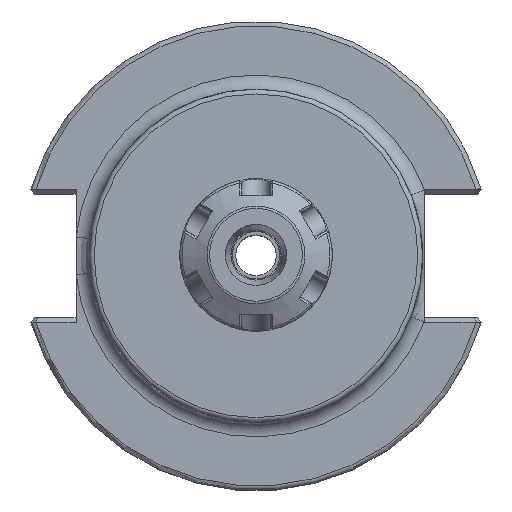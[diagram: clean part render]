
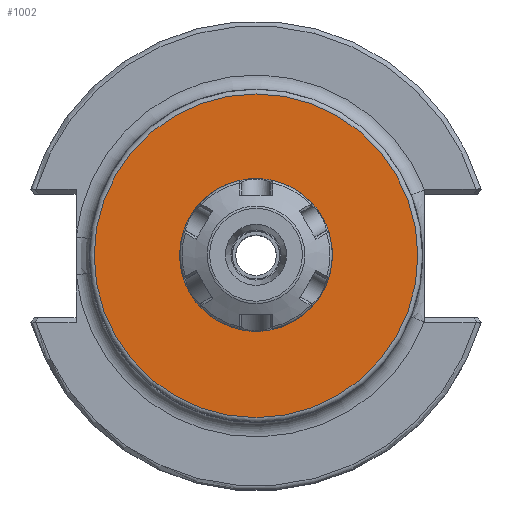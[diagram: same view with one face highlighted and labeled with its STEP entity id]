
A CAD part, top view. The second image highlights one B-rep face of the part: STEP entity #1002.
In plain terms, the highlighted planar face has unit normal (0, 0, 1).
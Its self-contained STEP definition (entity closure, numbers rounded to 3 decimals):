
#444=PLANE('',#3435);
#813=FACE_BOUND('',#1375,.T.);
#814=FACE_BOUND('',#1376,.T.);
#1002=ADVANCED_FACE('',(#813,#814),#444,.T.);
#1375=EDGE_LOOP('',(#2198));
#1376=EDGE_LOOP('',(#2199));
#2198=ORIENTED_EDGE('',*,*,#3075,.T.);
#2199=ORIENTED_EDGE('',*,*,#3076,.T.);
#2694=VERTEX_POINT('',#6440);
#2695=VERTEX_POINT('',#6442);
#3075=EDGE_CURVE('',#2694,#2694,#3232,.T.);
#3076=EDGE_CURVE('',#2695,#2695,#3233,.T.);
#3232=CIRCLE('',#3433,15.);
#3233=CIRCLE('',#3434,33.925);
#3433=AXIS2_PLACEMENT_3D('',#6439,#3954,#3955);
#3434=AXIS2_PLACEMENT_3D('',#6441,#3956,#3957);
#3435=AXIS2_PLACEMENT_3D('',#6443,#3958,#3959);
#3954=DIRECTION('',(0.,0.,-1.));
#3955=DIRECTION('',(1.,0.,0.));
#3956=DIRECTION('',(0.,0.,1.));
#3957=DIRECTION('',(1.,0.,0.));
#3958=DIRECTION('',(0.,0.,1.));
#3959=DIRECTION('',(-1.,0.,0.));
#6439=CARTESIAN_POINT('',(0.,0.,85.85));
#6440=CARTESIAN_POINT('',(15.,0.,85.85));
#6441=CARTESIAN_POINT('',(0.,0.,85.85));
#6442=CARTESIAN_POINT('',(33.925,0.,85.85));
#6443=CARTESIAN_POINT('',(0.,-34.925,85.85));
